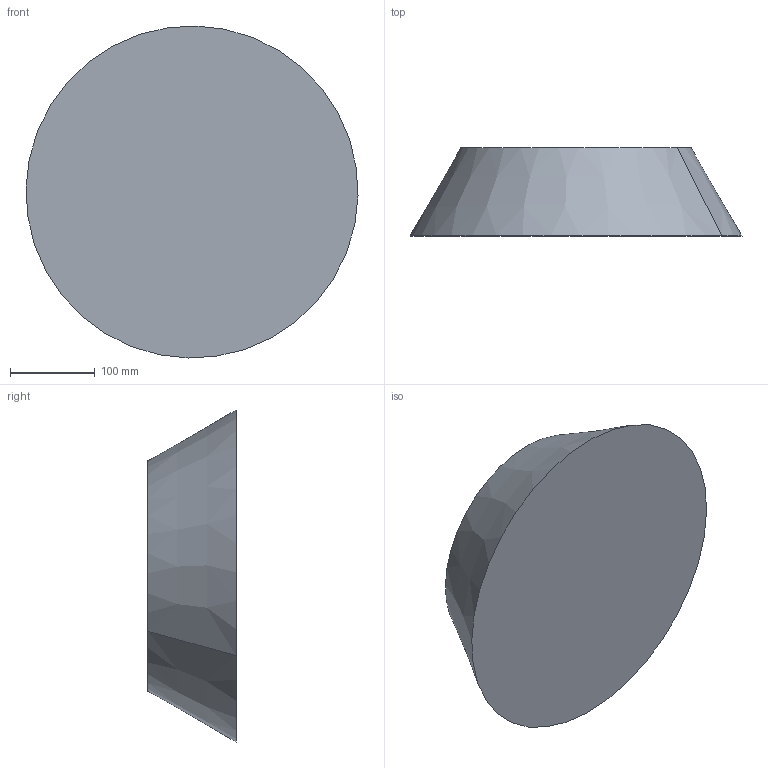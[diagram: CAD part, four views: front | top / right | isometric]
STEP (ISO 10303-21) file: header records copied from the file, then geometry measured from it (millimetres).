
FILE_DESCRIPTION(('CATIA V5 STEP Exchange'),'2;1');
FILE_NAME('C:\_Andres\UNIVERSIDAD\IQS\ASIGNATURAS\DAO\EXF\EXF-16172c\2inicio\Bonilla_Arrufat_Ej09_v4.stp','2017-03-05T22:13:09+00:00',('none'),('none'),'CATIA Version 5-6 Release 2014 SP1 HF18','CATIA V5 STEP AP203','none');
FILE_SCHEMA(('CONFIG_CONTROL_DESIGN'));
Length unit declared in the file: millimetre
Products named in the file (1): Bonilla_Arrufat_Ej09_v4
Bounding box: 391.89 x 104 x 391.89 mm (x, y, z)
Volume: 9091151.1 mm3; surface area: 306192.4 mm2
Topology: 1 solids, 2 shells, 8 faces, 12 edges, 8 vertices
Faces by surface type: plane 4, cone 2, cylinder 2
Entity records: 205 total; most frequent: CARTESIAN_POINT 27, DIRECTION 24, ORIENTED_EDGE 24, AXIS2_PLACEMENT_3D 15, EDGE_CURVE 12, ADVANCED_FACE 8, CIRCLE 8, EDGE_LOOP 8
